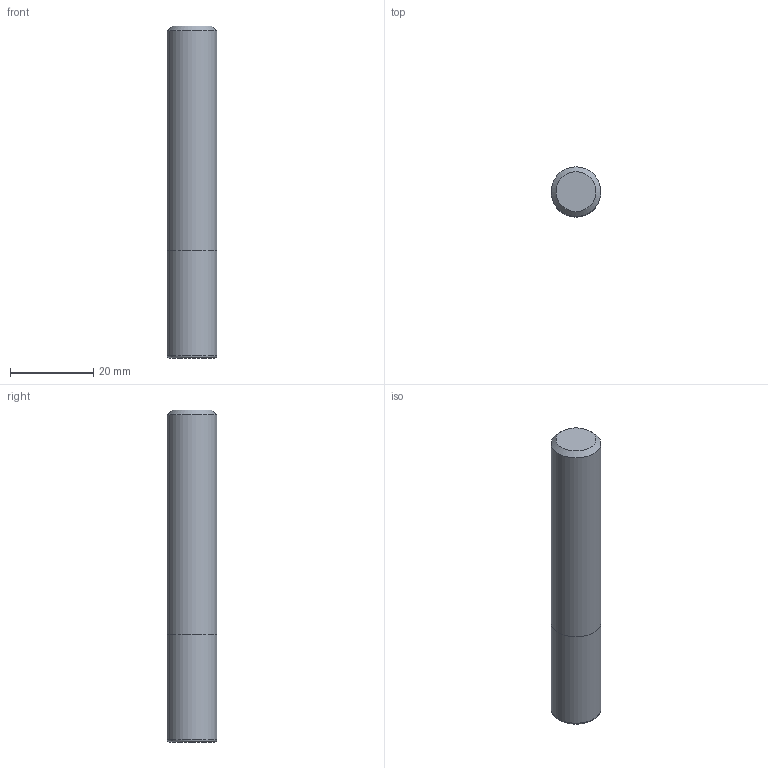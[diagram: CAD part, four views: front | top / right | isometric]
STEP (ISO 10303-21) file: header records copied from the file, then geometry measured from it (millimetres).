
FILE_DESCRIPTION((''),'2;1');
FILE_NAME('C:\Users\nsx150\AppData\Local\Temp\Mastercam 2021\0KY4AY0TVG\TEMP.step','2021-10-21T14:42:07',(''),(''),'STEP Write','Mastercam 2021 ... CNC Software, Inc.','');
FILE_SCHEMA(('AUTOMOTIVE_DESIGN'));
Length unit declared in the file: millimetre
Products named in the file (1): None
Bounding box: 12 x 12 x 80 mm (x, y, z)
Volume: 9020.5 mm3; surface area: 3431.7 mm2
Topology: 2 solids, 2 shells, 8 faces, 10 edges, 6 vertices
Faces by surface type: plane 4, cylinder 2, torus 1, cone 1
Full cylindrical faces by diameter (mm): 12 x2
Entity records: 190 total; most frequent: DIRECTION 32, CARTESIAN_POINT 22, AXIS2_PLACEMENT_3D 16, ORIENTED_EDGE 12, EDGE_LOOP 12, STYLED_ITEM 11, ADVANCED_FACE 8, FACE_BOUND 7
